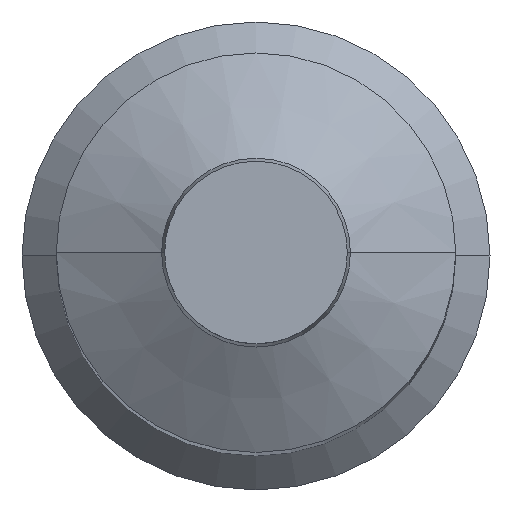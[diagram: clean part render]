
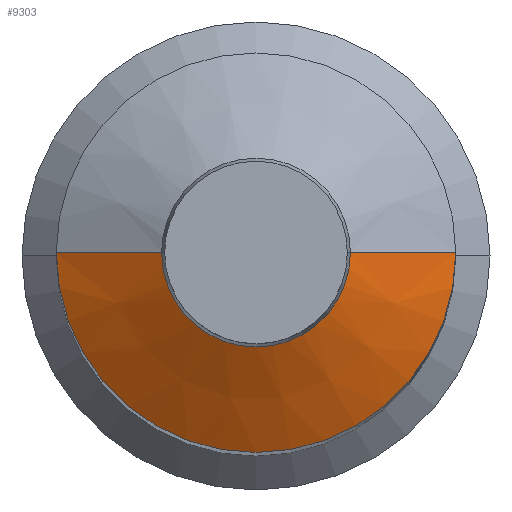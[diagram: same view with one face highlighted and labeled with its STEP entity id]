
A CAD part, top view. The second image highlights one B-rep face of the part: STEP entity #9303.
In plain terms, the highlighted conical face has half-angle 60 degrees and reference radius 35 mm.
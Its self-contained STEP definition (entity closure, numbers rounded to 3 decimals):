
#4544 = CARTESIAN_POINT ( 'NONE',  ( 0., 0., 376.54 ) ) ;
#4545 = DIRECTION ( 'NONE',  ( 0., 0., -1. ) ) ;
#4546 = DIRECTION ( 'NONE',  ( 1., 0., 0. ) ) ;
#4554 = CARTESIAN_POINT ( 'NONE',  ( 0., 0., 387.2 ) ) ;
#4555 = DIRECTION ( 'NONE',  ( 0., 0., -1. ) ) ;
#4556 = DIRECTION ( 'NONE',  ( 1., 0., 0. ) ) ;
#4557 = CARTESIAN_POINT ( 'NONE',  ( -35., 0., 376.54 ) ) ;
#4558 = DIRECTION ( 'NONE',  ( -0.866, 0., -0.5 ) ) ;
#4559 = CARTESIAN_POINT ( 'NONE',  ( 35., 0., 376.54 ) ) ;
#4560 = DIRECTION ( 'NONE',  ( 0.866, 0., -0.5 ) ) ;
#7460 = ORIENTED_EDGE ( 'NONE', *, *, #13660, .T. ) ;
#7461 = ORIENTED_EDGE ( 'NONE', *, *, #13661, .T. ) ;
#7462 = ORIENTED_EDGE ( 'NONE', *, *, #13656, .F. ) ;
#7463 = ORIENTED_EDGE ( 'NONE', *, *, #13662, .F. ) ;
#7916 = CIRCLE ( 'NONE', #13536, 35. ) ;
#7921 = LINE ( 'NONE', #4557, #7923 ) ;
#7922 = CIRCLE ( 'NONE', #13538, 16.536 ) ;
#7923 = VECTOR ( 'NONE', #4558, 1000. ) ;
#7924 = LINE ( 'NONE', #4559, #7925 ) ;
#7925 = VECTOR ( 'NONE', #4560, 1000. ) ;
#9303 = ADVANCED_FACE ( 'NONE', ( #20993 ), #20999, .T. ) ;
#13536 = AXIS2_PLACEMENT_3D ( 'NONE', #4544, #4545, #4546 ) ;
#13538 = AXIS2_PLACEMENT_3D ( 'NONE', #4554, #4555, #4556 ) ;
#13656 = EDGE_CURVE ( 'NONE', #19659, #19664, #7916, .T. ) ;
#13660 = EDGE_CURVE ( 'NONE', #19666, #19667, #7922, .T. ) ;
#13661 = EDGE_CURVE ( 'NONE', #19667, #19664, #7921, .T. ) ;
#13662 = EDGE_CURVE ( 'NONE', #19666, #19659, #7924, .T. ) ;
#14497 = AXIS2_PLACEMENT_3D ( 'NONE', #20404, #20405, #20406 ) ;
#18980 = EDGE_LOOP ( 'NONE', ( #7460, #7461, #7462, #7463 ) ) ;
#19659 = VERTEX_POINT ( 'NONE', #19708 ) ;
#19664 = VERTEX_POINT ( 'NONE', #19713 ) ;
#19666 = VERTEX_POINT ( 'NONE', #19715 ) ;
#19667 = VERTEX_POINT ( 'NONE', #19716 ) ;
#19708 = CARTESIAN_POINT ( 'NONE',  ( 35., 0., 376.54 ) ) ;
#19713 = CARTESIAN_POINT ( 'NONE',  ( -35., 0., 376.54 ) ) ;
#19715 = CARTESIAN_POINT ( 'NONE',  ( 16.536, 0., 387.2 ) ) ;
#19716 = CARTESIAN_POINT ( 'NONE',  ( -16.536, 0., 387.2 ) ) ;
#20404 = CARTESIAN_POINT ( 'NONE',  ( 0., 0., 376.54 ) ) ;
#20405 = DIRECTION ( 'NONE',  ( 0., 0., -1. ) ) ;
#20406 = DIRECTION ( 'NONE',  ( 1., 0., 0. ) ) ;
#20993 = FACE_OUTER_BOUND ( 'NONE', #18980, .T. ) ;
#20999 = CONICAL_SURFACE ( 'NONE', #14497, 35., 1.047 ) ;
